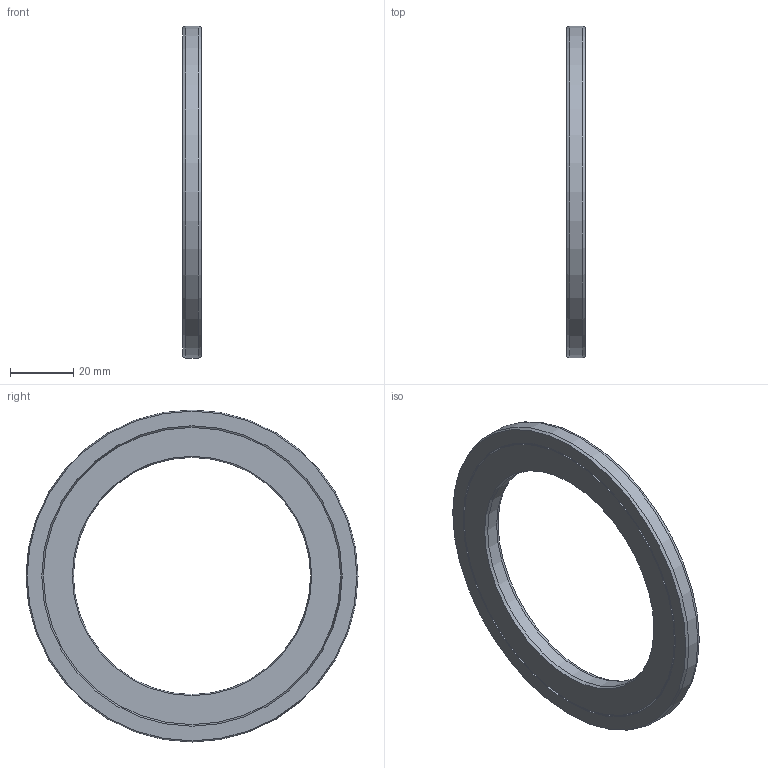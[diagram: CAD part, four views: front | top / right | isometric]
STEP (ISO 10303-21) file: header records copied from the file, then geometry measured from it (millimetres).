
FILE_DESCRIPTION(/* description */ (''),/* implementation_level */ '2;1');
FILE_NAME(/* name */ '307177 CF 61915 S10.stp',/* time_stamp */ '2016-12-16T11:59:11+01:00',/* author */ (''),/* organization */ (''),/* preprocessor_version */ 'ST-DEVELOPER v15',/* originating_system */ 'SIEMENS PLM Software NX 8.5',/* authorisation */ '');
FILE_SCHEMA (('CONFIG_CONTROL_DESIGN'));
Length unit declared in the file: millimetre
Products named in the file (1): ATE0000139_01
Bounding box: 6 x 105 x 105 mm (x, y, z)
Volume: 23181.4 mm3; surface area: 19492.2 mm2
Topology: 2 solids, 2 shells, 26 faces, 46 edges, 28 vertices
Faces by surface type: cone 10, plane 8, cylinder 8
Full cylindrical faces by diameter (mm): 75 x1, 82.5 x1, 83.5 x1, 85 x1, 86 x1, 94 x1, 95 x1, 105 x1
Entity records: 614 total; most frequent: DIRECTION 106, CARTESIAN_POINT 79, AXIS2_PLACEMENT_3D 53, FACE_BOUND 52, EDGE_LOOP 52, ORIENTED_EDGE 52, ADVANCED_FACE 26, VERTEX_POINT 26
